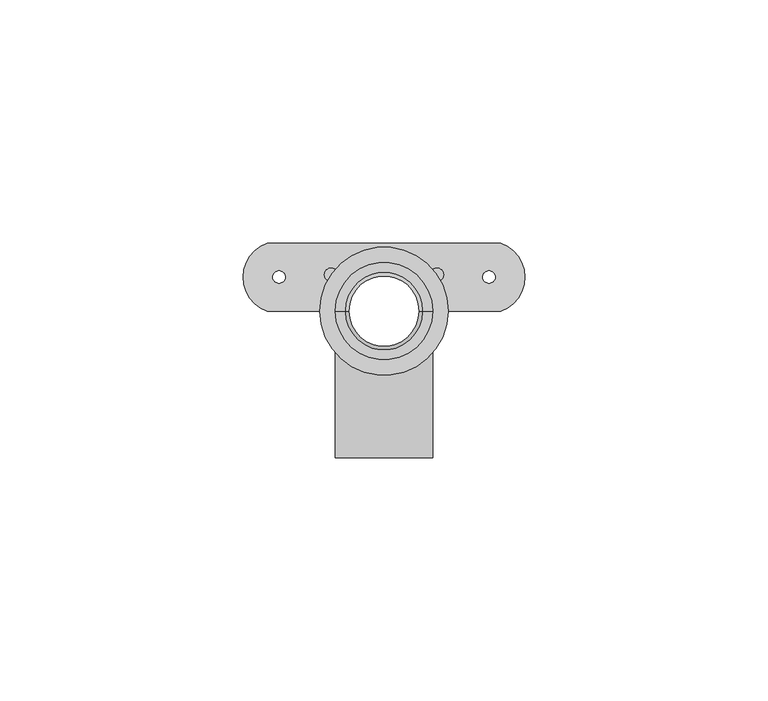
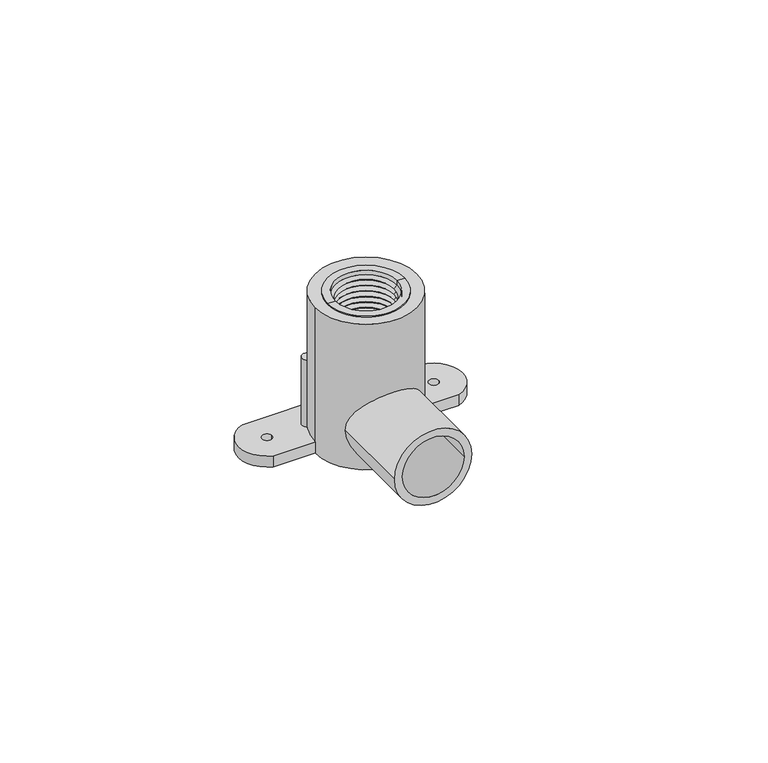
"""IFC4 building model written with IfcOpenShell, lengths in millimetres: valve geometry, Codo con Oreja_Lubrizol_CPVC_FlowGuard_MX 13mm : Codo con Oreja_Lubrizol_CPVC_FlowGuard_MX 13mm."""

from ifc_helpers import new_model, si_unit, point, frame, frame_2d, origin, origin_with_axes, origin_2d, place, context, project, spatial, polyline, circle_curve, trimmed, segment, composite_curve, outline, extrude, source, transform, mapped, element, save
from ifc_brep_helpers import plane_surface, cylinder_surface, revolved_surface, advanced_brep


def valve_1cd27f9c(model_context):
    return source(origin(), model_context, "Body", "SolidModel", [
        extrude(outline(composite_curve([segment(trimmed(circle_curve(origin_2d(), 13.2), [point((11.6014298, 6.2965727))], [point((10.0386703, 8.5711783))], True, "CARTESIAN"), True, "CONTINUOUS"), segment(trimmed(circle_curve(frame_2d((10.8796572, 7.4748284)), 1.3817533), [point((10.0386703, 8.5711783))], [point((11.6014298, 6.2965727))], False, "CARTESIAN"), True, "CONTINUOUS")], self_intersect=False)), origin_with_axes(), (0.0, 0.0, 1.0), 21.0940159),
        extrude(outline(composite_curve([segment(trimmed(circle_curve(frame_2d((-10.8796572, 7.4748284)), 1.3817533), [point((-11.6014298, 6.2965727))], [point((-10.0386703, 8.5711783))], False, "CARTESIAN"), True, "CONTINUOUS"), segment(trimmed(circle_curve(origin_2d(), 13.2), [point((-10.0386703, 8.5711783))], [point((-11.6014298, 6.2965727))], True, "CARTESIAN"), True, "CONTINUOUS")], self_intersect=False)), origin_with_axes(), (0.0, 0.0, 1.0), 21.0940159),
        extrude(outline(composite_curve([segment(polyline([(-24.0, 14.0), (0.0, 14.0), (24.0, 14.0)]), True, "CONTINUOUS"), segment(trimmed(circle_curve(frame_2d((21.6, 7.0)), 7.4), [point((24.0, 14.0))], [point((24.0, 0.0))], False, "CARTESIAN"), True, "CONTINUOUS"), segment(polyline([(24.0, 0.0), (13.2, 0.0)]), True, "CONTINUOUS"), segment(trimmed(circle_curve(origin_2d(), 13.2), [point((13.2, 0.0))], [point((-13.2, 0.0))], True, "CARTESIAN"), True, "CONTINUOUS"), segment(polyline([(-13.2, 0.0), (-24.0, 0.0)]), True, "CONTINUOUS"), segment(trimmed(circle_curve(frame_2d((-21.6, 7.0)), 7.4), [point((-24.0, 0.0))], [point((-24.0, 14.0))], False, "CARTESIAN"), True, "CONTINUOUS")], self_intersect=False), holes=[composite_curve([segment(trimmed(circle_curve(frame_2d((21.6, 7.0)), 1.27), [point((20.33, 7.0))], [point((22.87, 7.0))], True, "CARTESIAN"), True, "CONTINUOUS"), segment(trimmed(circle_curve(frame_2d((21.6, 7.0)), 1.27), [point((22.87, 7.0))], [point((20.33, 7.0))], True, "CARTESIAN"), True, "CONTINUOUS")], self_intersect=False), composite_curve([segment(trimmed(circle_curve(frame_2d((-21.6, 7.0)), 1.27), [point((-20.33, 7.0))], [point((-22.87, 7.0))], True, "CARTESIAN"), True, "CONTINUOUS"), segment(trimmed(circle_curve(frame_2d((-21.6, 7.0)), 1.27), [point((-22.87, 7.0))], [point((-20.33, 7.0))], True, "CARTESIAN"), True, "CONTINUOUS")], self_intersect=False)]), origin_with_axes(), (0.0, 0.0, 1.0), 3.0),
        advanced_brep(
        [(10.0, 0.0, 9.8875332), (-10.0, 0.0, 9.8875332), (-10.0, 0.0, 39.8365206), (10.0, 0.0, 39.8365206), (8.0, 0.0, 9.8875332), (-8.0, 0.0, 9.8875332), (8.0, 0.0, 18.8060667), (-8.0, 0.0, 18.8060667), (7.2373503, 0.0, 19.5687164), (-7.2373503, 0.0, 19.5687164), (8.0, 0.0, 20.3313661), (-8.0, 0.0, 20.3313661), (7.2373503, 0.0, 21.0940159), (-7.2373503, 0.0, 21.0940159), (8.0, 0.0, 21.8566656), (-8.0, 0.0, 21.8566656), (7.2373503, 0.0, 22.6193153), (-7.2373503, 0.0, 22.6193153), (8.0, 0.0, 23.381965), (-8.0, 0.0, 23.381965), (7.2373503, 0.0, 24.1446148), (-7.2373503, 0.0, 24.1446148), (8.0, 0.0, 24.9072645), (-8.0, 0.0, 24.9072645), (7.2373503, 0.0, 25.6699142), (-7.2373503, 0.0, 25.6699142), (8.0, 0.0, 26.432564), (-8.0, 0.0, 26.432564), (7.2373503, 0.0, 27.1952137), (-7.2373503, 0.0, 27.1952137), (8.0, 0.0, 27.9578634), (-8.0, 0.0, 27.9578634), (7.2373503, 0.0, 28.7205131), (-7.2373503, 0.0, 28.7205131), (8.0, 0.0, 29.4831629), (-8.0, 0.0, 29.4831629), (7.2373503, 0.0, 30.2458126), (-7.2373503, 0.0, 30.2458126), (8.0, 0.0, 31.0084623), (-8.0, 0.0, 31.0084623), (7.2373503, 0.0, 31.771112), (-7.2373503, 0.0, 31.771112), (8.0, 0.0, 32.5337618), (-8.0, 0.0, 32.5337618), (7.2373503, 0.0, 33.2964115), (-7.2373503, 0.0, 33.2964115), (8.0, 0.0, 34.0590612), (-8.0, 0.0, 34.0590612), (7.2373503, 0.0, 34.821711), (-7.2373503, 0.0, 34.821711), (8.0, 0.0, 35.5843607), (-8.0, 0.0, 35.5843607), (7.2373503, 0.0, 36.3470104), (-7.2373503, 0.0, 36.3470104), (8.0, 0.0, 37.1096601), (-8.0, 0.0, 37.1096601), (7.2373503, 0.0, 37.8723099), (-7.2373503, 0.0, 37.8723099), (8.0, 0.0, 38.6349596), (-8.0, 0.0, 38.6349596), (8.0, 0.0, 39.8365206), (-8.0, 0.0, 39.8365206)],
        [
            (0, 1, circle_curve(frame((0.0, 0.0, 9.8875332), z_axis=(0.0, 0.0, 1.0), x_axis=(-1.0, 0.0, 0.0)), 10.0)),
            (1, 2),
            (2, 3, circle_curve(frame((0.0, 0.0, 39.8365206), z_axis=(0.0, 0.0, -1.0), x_axis=(-1.0, 0.0, 0.0)), 10.0)),
            (3, 0),
            (1, 0, circle_curve(frame((0.0, 0.0, 9.8875332), z_axis=(0.0, 0.0, 1.0), x_axis=(-1.0, 0.0, 0.0)), 10.0)),
            (3, 2, circle_curve(frame((0.0, 0.0, 39.8365206), z_axis=(0.0, 0.0, -1.0), x_axis=(-1.0, 0.0, 0.0)), 10.0)),
            (4, 5, circle_curve(frame((0.0, 0.0, 9.8875332), z_axis=(0.0, 0.0, 1.0), x_axis=(-1.0, 0.0, 0.0)), 8.0)),
            (5, 1),
            (0, 4),
            (5, 4, circle_curve(frame((0.0, 0.0, 9.8875332), z_axis=(0.0, 0.0, 1.0), x_axis=(-1.0, 0.0, 0.0)), 8.0)),
            (6, 7, circle_curve(frame((0.0, 0.0, 18.8060667), z_axis=(0.0, 0.0, 1.0), x_axis=(-1.0, 0.0, 0.0)), 8.0)),
            (7, 5),
            (4, 6),
            (7, 6, circle_curve(frame((0.0, 0.0, 18.8060667), z_axis=(0.0, 0.0, 1.0), x_axis=(-1.0, 0.0, 0.0)), 8.0)),
            (8, 9, circle_curve(frame((0.0, 0.0, 19.5687164), z_axis=(0.0, 0.0, 1.0), x_axis=(-1.0, 0.0, 0.0)), 7.2373503)),
            (9, 7),
            (6, 8),
            (9, 8, circle_curve(frame((0.0, 0.0, 19.5687164), z_axis=(0.0, 0.0, 1.0), x_axis=(-1.0, 0.0, 0.0)), 7.2373503)),
            (10, 11, circle_curve(frame((0.0, 0.0, 20.3313661), z_axis=(0.0, 0.0, 1.0), x_axis=(-1.0, 0.0, 0.0)), 8.0)),
            (11, 9),
            (8, 10),
            (11, 10, circle_curve(frame((0.0, 0.0, 20.3313661), z_axis=(0.0, 0.0, 1.0), x_axis=(-1.0, 0.0, 0.0)), 8.0)),
            (12, 13, circle_curve(frame((0.0, 0.0, 21.0940159), z_axis=(0.0, 0.0, 1.0), x_axis=(-1.0, 0.0, 0.0)), 7.2373503)),
            (13, 11),
            (10, 12),
            (13, 12, circle_curve(frame((0.0, 0.0, 21.0940159), z_axis=(0.0, 0.0, 1.0), x_axis=(-1.0, 0.0, 0.0)), 7.2373503)),
            (14, 15, circle_curve(frame((0.0, 0.0, 21.8566656), z_axis=(0.0, 0.0, 1.0), x_axis=(-1.0, 0.0, 0.0)), 8.0)),
            (15, 13),
            (12, 14),
            (15, 14, circle_curve(frame((0.0, 0.0, 21.8566656), z_axis=(0.0, 0.0, 1.0), x_axis=(-1.0, 0.0, 0.0)), 8.0)),
            (16, 17, circle_curve(frame((0.0, 0.0, 22.6193153), z_axis=(0.0, 0.0, 1.0), x_axis=(-1.0, 0.0, 0.0)), 7.2373503)),
            (17, 15),
            (14, 16),
            (17, 16, circle_curve(frame((0.0, 0.0, 22.6193153), z_axis=(0.0, 0.0, 1.0), x_axis=(-1.0, 0.0, 0.0)), 7.2373503)),
            (18, 19, circle_curve(frame((0.0, 0.0, 23.381965), z_axis=(0.0, 0.0, 1.0), x_axis=(-1.0, 0.0, 0.0)), 8.0)),
            (19, 17),
            (16, 18),
            (19, 18, circle_curve(frame((0.0, 0.0, 23.381965), z_axis=(0.0, 0.0, 1.0), x_axis=(-1.0, 0.0, 0.0)), 8.0)),
            (20, 21, circle_curve(frame((0.0, 0.0, 24.1446148), z_axis=(0.0, 0.0, 1.0), x_axis=(-1.0, 0.0, 0.0)), 7.2373503)),
            (21, 19),
            (18, 20),
            (21, 20, circle_curve(frame((0.0, 0.0, 24.1446148), z_axis=(0.0, 0.0, 1.0), x_axis=(-1.0, 0.0, 0.0)), 7.2373503)),
            (22, 23, circle_curve(frame((0.0, 0.0, 24.9072645), z_axis=(0.0, 0.0, 1.0), x_axis=(-1.0, 0.0, 0.0)), 8.0)),
            (23, 21),
            (20, 22),
            (23, 22, circle_curve(frame((0.0, 0.0, 24.9072645), z_axis=(0.0, 0.0, 1.0), x_axis=(-1.0, 0.0, 0.0)), 8.0)),
            (24, 25, circle_curve(frame((0.0, 0.0, 25.6699142), z_axis=(0.0, 0.0, 1.0), x_axis=(-1.0, 0.0, 0.0)), 7.2373503)),
            (25, 23),
            (22, 24),
            (25, 24, circle_curve(frame((0.0, 0.0, 25.6699142), z_axis=(0.0, 0.0, 1.0), x_axis=(-1.0, 0.0, 0.0)), 7.2373503)),
            (26, 27, circle_curve(frame((0.0, 0.0, 26.432564), z_axis=(0.0, 0.0, 1.0), x_axis=(-1.0, 0.0, 0.0)), 8.0)),
            (27, 25),
            (24, 26),
            (27, 26, circle_curve(frame((0.0, 0.0, 26.432564), z_axis=(0.0, 0.0, 1.0), x_axis=(-1.0, 0.0, 0.0)), 8.0)),
            (28, 29, circle_curve(frame((0.0, 0.0, 27.1952137), z_axis=(0.0, 0.0, 1.0), x_axis=(-1.0, 0.0, 0.0)), 7.2373503)),
            (29, 27),
            (26, 28),
            (29, 28, circle_curve(frame((0.0, 0.0, 27.1952137), z_axis=(0.0, 0.0, 1.0), x_axis=(-1.0, 0.0, 0.0)), 7.2373503)),
            (30, 31, circle_curve(frame((0.0, 0.0, 27.9578634), z_axis=(0.0, 0.0, 1.0), x_axis=(-1.0, 0.0, 0.0)), 8.0)),
            (31, 29),
            (28, 30),
            (31, 30, circle_curve(frame((0.0, 0.0, 27.9578634), z_axis=(0.0, 0.0, 1.0), x_axis=(-1.0, 0.0, 0.0)), 8.0)),
            (32, 33, circle_curve(frame((0.0, 0.0, 28.7205131), z_axis=(0.0, 0.0, 1.0), x_axis=(-1.0, 0.0, 0.0)), 7.2373503)),
            (33, 31),
            (30, 32),
            (33, 32, circle_curve(frame((0.0, 0.0, 28.7205131), z_axis=(0.0, 0.0, 1.0), x_axis=(-1.0, 0.0, 0.0)), 7.2373503)),
            (34, 35, circle_curve(frame((0.0, 0.0, 29.4831629), z_axis=(0.0, 0.0, 1.0), x_axis=(-1.0, 0.0, 0.0)), 8.0)),
            (35, 33),
            (32, 34),
            (35, 34, circle_curve(frame((0.0, 0.0, 29.4831629), z_axis=(0.0, 0.0, 1.0), x_axis=(-1.0, 0.0, 0.0)), 8.0)),
            (36, 37, circle_curve(frame((0.0, 0.0, 30.2458126), z_axis=(0.0, 0.0, 1.0), x_axis=(-1.0, 0.0, 0.0)), 7.2373503)),
            (37, 35),
            (34, 36),
            (37, 36, circle_curve(frame((0.0, 0.0, 30.2458126), z_axis=(0.0, 0.0, 1.0), x_axis=(-1.0, 0.0, 0.0)), 7.2373503)),
            (38, 39, circle_curve(frame((0.0, 0.0, 31.0084623), z_axis=(0.0, 0.0, 1.0), x_axis=(-1.0, 0.0, 0.0)), 8.0)),
            (39, 37),
            (36, 38),
            (39, 38, circle_curve(frame((0.0, 0.0, 31.0084623), z_axis=(0.0, 0.0, 1.0), x_axis=(-1.0, 0.0, 0.0)), 8.0)),
            (40, 41, circle_curve(frame((0.0, 0.0, 31.771112), z_axis=(0.0, 0.0, 1.0), x_axis=(-1.0, 0.0, 0.0)), 7.2373503)),
            (41, 39),
            (38, 40),
            (41, 40, circle_curve(frame((0.0, 0.0, 31.771112), z_axis=(0.0, 0.0, 1.0), x_axis=(-1.0, 0.0, 0.0)), 7.2373503)),
            (42, 43, circle_curve(frame((0.0, 0.0, 32.5337618), z_axis=(0.0, 0.0, 1.0), x_axis=(-1.0, 0.0, 0.0)), 8.0)),
            (43, 41),
            (40, 42),
            (43, 42, circle_curve(frame((0.0, 0.0, 32.5337618), z_axis=(0.0, 0.0, 1.0), x_axis=(-1.0, 0.0, 0.0)), 8.0)),
            (44, 45, circle_curve(frame((0.0, 0.0, 33.2964115), z_axis=(0.0, 0.0, 1.0), x_axis=(-1.0, 0.0, 0.0)), 7.2373503)),
            (45, 43),
            (42, 44),
            (45, 44, circle_curve(frame((0.0, 0.0, 33.2964115), z_axis=(0.0, 0.0, 1.0), x_axis=(-1.0, 0.0, 0.0)), 7.2373503)),
            (46, 47, circle_curve(frame((0.0, 0.0, 34.0590612), z_axis=(0.0, 0.0, 1.0), x_axis=(-1.0, 0.0, 0.0)), 8.0)),
            (47, 45),
            (44, 46),
            (47, 46, circle_curve(frame((0.0, 0.0, 34.0590612), z_axis=(0.0, 0.0, 1.0), x_axis=(-1.0, 0.0, 0.0)), 8.0)),
            (48, 49, circle_curve(frame((0.0, 0.0, 34.821711), z_axis=(0.0, 0.0, 1.0), x_axis=(-1.0, 0.0, 0.0)), 7.2373503)),
            (49, 47),
            (46, 48),
            (49, 48, circle_curve(frame((0.0, 0.0, 34.821711), z_axis=(0.0, 0.0, 1.0), x_axis=(-1.0, 0.0, 0.0)), 7.2373503)),
            (50, 51, circle_curve(frame((0.0, 0.0, 35.5843607), z_axis=(0.0, 0.0, 1.0), x_axis=(-1.0, 0.0, 0.0)), 8.0)),
            (51, 49),
            (48, 50),
            (51, 50, circle_curve(frame((0.0, 0.0, 35.5843607), z_axis=(0.0, 0.0, 1.0), x_axis=(-1.0, 0.0, 0.0)), 8.0)),
            (52, 53, circle_curve(frame((0.0, 0.0, 36.3470104), z_axis=(0.0, 0.0, 1.0), x_axis=(-1.0, 0.0, 0.0)), 7.2373503)),
            (53, 51),
            (50, 52),
            (53, 52, circle_curve(frame((0.0, 0.0, 36.3470104), z_axis=(0.0, 0.0, 1.0), x_axis=(-1.0, 0.0, 0.0)), 7.2373503)),
            (54, 55, circle_curve(frame((0.0, 0.0, 37.1096601), z_axis=(0.0, 0.0, 1.0), x_axis=(-1.0, 0.0, 0.0)), 8.0)),
            (55, 53),
            (52, 54),
            (55, 54, circle_curve(frame((0.0, 0.0, 37.1096601), z_axis=(0.0, 0.0, 1.0), x_axis=(-1.0, 0.0, 0.0)), 8.0)),
            (56, 57, circle_curve(frame((0.0, 0.0, 37.8723099), z_axis=(0.0, 0.0, 1.0), x_axis=(-1.0, 0.0, 0.0)), 7.2373503)),
            (57, 55),
            (54, 56),
            (57, 56, circle_curve(frame((0.0, 0.0, 37.8723099), z_axis=(0.0, 0.0, 1.0), x_axis=(-1.0, 0.0, 0.0)), 7.2373503)),
            (58, 59, circle_curve(frame((0.0, 0.0, 38.6349596), z_axis=(0.0, 0.0, 1.0), x_axis=(-1.0, 0.0, 0.0)), 8.0)),
            (59, 57),
            (56, 58),
            (59, 58, circle_curve(frame((0.0, 0.0, 38.6349596), z_axis=(0.0, 0.0, 1.0), x_axis=(-1.0, 0.0, 0.0)), 8.0)),
            (60, 61, circle_curve(frame((0.0, 0.0, 39.8365206), z_axis=(0.0, 0.0, 1.0), x_axis=(-1.0, 0.0, 0.0)), 8.0)),
            (61, 59),
            (58, 60),
            (61, 60, circle_curve(frame((0.0, 0.0, 39.8365206), z_axis=(0.0, 0.0, 1.0), x_axis=(-1.0, 0.0, 0.0)), 8.0)),
            (2, 61),
            (60, 3),
        ],
        [
            cylinder_surface(frame((0.0, 0.0, 39.8365206), z_axis=(0.0, 0.0, -1.0), x_axis=(-1.0, 0.0, 0.0)), 10.0),
            plane_surface(frame((0.0, 0.0, 9.8875332), z_axis=(0.0, 0.0, -1.0), x_axis=(-1.0, 0.0, 0.0))),
            revolved_surface(polyline([(-8.0, 0.0, 9.8875332), (-8.0, 0.0, 18.8060667)]), (0.0, 0.0, 39.8365206), (0.0, 0.0, -1.0)),
            revolved_surface(polyline([(-8.0, 0.0, 18.8060667), (-7.2373503, 0.0, 19.5687164)]), (0.0, 0.0, 39.8365206), (0.0, 0.0, -1.0)),
            revolved_surface(polyline([(-7.2373503, 0.0, 19.5687164), (-8.0, 0.0, 20.3313661)]), (0.0, 0.0, 39.8365206), (0.0, 0.0, -1.0)),
            revolved_surface(polyline([(-8.0, 0.0, 20.3313661), (-7.2373503, 0.0, 21.0940159)]), (0.0, 0.0, 39.8365206), (0.0, 0.0, -1.0)),
            revolved_surface(polyline([(-7.2373503, 0.0, 21.0940159), (-8.0, 0.0, 21.8566656)]), (0.0, 0.0, 39.8365206), (0.0, 0.0, -1.0)),
            revolved_surface(polyline([(-8.0, 0.0, 21.8566656), (-7.2373503, 0.0, 22.6193153)]), (0.0, 0.0, 39.8365206), (0.0, 0.0, -1.0)),
            revolved_surface(polyline([(-7.2373503, 0.0, 22.6193153), (-8.0, 0.0, 23.381965)]), (0.0, 0.0, 39.8365206), (0.0, 0.0, -1.0)),
            revolved_surface(polyline([(-8.0, 0.0, 23.381965), (-7.2373503, 0.0, 24.1446148)]), (0.0, 0.0, 39.8365206), (0.0, 0.0, -1.0)),
            revolved_surface(polyline([(-7.2373503, 0.0, 24.1446148), (-8.0, 0.0, 24.9072645)]), (0.0, 0.0, 39.8365206), (0.0, 0.0, -1.0)),
            revolved_surface(polyline([(-8.0, 0.0, 24.9072645), (-7.2373503, 0.0, 25.6699142)]), (0.0, 0.0, 39.8365206), (0.0, 0.0, -1.0)),
            revolved_surface(polyline([(-7.2373503, 0.0, 25.6699142), (-8.0, 0.0, 26.432564)]), (0.0, 0.0, 39.8365206), (0.0, 0.0, -1.0)),
            revolved_surface(polyline([(-8.0, 0.0, 26.432564), (-7.2373503, 0.0, 27.1952137)]), (0.0, 0.0, 39.8365206), (0.0, 0.0, -1.0)),
            revolved_surface(polyline([(-7.2373503, 0.0, 27.1952137), (-8.0, 0.0, 27.9578634)]), (0.0, 0.0, 39.8365206), (0.0, 0.0, -1.0)),
            revolved_surface(polyline([(-8.0, 0.0, 27.9578634), (-7.2373503, 0.0, 28.7205131)]), (0.0, 0.0, 39.8365206), (0.0, 0.0, -1.0)),
            revolved_surface(polyline([(-7.2373503, 0.0, 28.7205131), (-8.0, 0.0, 29.4831629)]), (0.0, 0.0, 39.8365206), (0.0, 0.0, -1.0)),
            revolved_surface(polyline([(-8.0, 0.0, 29.4831629), (-7.2373503, 0.0, 30.2458126)]), (0.0, 0.0, 39.8365206), (0.0, 0.0, -1.0)),
            revolved_surface(polyline([(-7.2373503, 0.0, 30.2458126), (-8.0, 0.0, 31.0084623)]), (0.0, 0.0, 39.8365206), (0.0, 0.0, -1.0)),
            revolved_surface(polyline([(-8.0, 0.0, 31.0084623), (-7.2373503, 0.0, 31.771112)]), (0.0, 0.0, 39.8365206), (0.0, 0.0, -1.0)),
            revolved_surface(polyline([(-7.2373503, 0.0, 31.771112), (-8.0, 0.0, 32.5337618)]), (0.0, 0.0, 39.8365206), (0.0, 0.0, -1.0)),
            revolved_surface(polyline([(-8.0, 0.0, 32.5337618), (-7.2373503, 0.0, 33.2964115)]), (0.0, 0.0, 39.8365206), (0.0, 0.0, -1.0)),
            revolved_surface(polyline([(-7.2373503, 0.0, 33.2964115), (-8.0, 0.0, 34.0590612)]), (0.0, 0.0, 39.8365206), (0.0, 0.0, -1.0)),
            revolved_surface(polyline([(-8.0, 0.0, 34.0590612), (-7.2373503, 0.0, 34.821711)]), (0.0, 0.0, 39.8365206), (0.0, 0.0, -1.0)),
            revolved_surface(polyline([(-7.2373503, 0.0, 34.821711), (-8.0, 0.0, 35.5843607)]), (0.0, 0.0, 39.8365206), (0.0, 0.0, -1.0)),
            revolved_surface(polyline([(-8.0, 0.0, 35.5843607), (-7.2373503, 0.0, 36.3470104)]), (0.0, 0.0, 39.8365206), (0.0, 0.0, -1.0)),
            revolved_surface(polyline([(-7.2373503, 0.0, 36.3470104), (-8.0, 0.0, 37.1096601)]), (0.0, 0.0, 39.8365206), (0.0, 0.0, -1.0)),
            revolved_surface(polyline([(-8.0, 0.0, 37.1096601), (-7.2373503, 0.0, 37.8723099)]), (0.0, 0.0, 39.8365206), (0.0, 0.0, -1.0)),
            revolved_surface(polyline([(-7.2373503, 0.0, 37.8723099), (-8.0, 0.0, 38.6349596)]), (0.0, 0.0, 39.8365206), (0.0, 0.0, -1.0)),
            revolved_surface(polyline([(-8.0, 0.0, 38.6349596), (-8.0, 0.0, 39.8365206)]), (0.0, 0.0, 39.8365206), (0.0, 0.0, -1.0)),
            plane_surface(frame((0.0, 0.0, 39.8365206), z_axis=(0.0, 0.0, 1.0), x_axis=(-1.0, 0.0, 0.0))),
        ],
        [
            (0, [[1, 2, 3, 4]]),
            (0, [[5, -4, 6, -2]]),
            (1, [[7, 8, -1, 9]]),
            (1, [[10, -9, -5, -8]]),
            (2, [[11, 12, -7, 13]]),
            (2, [[14, -13, -10, -12]]),
            (3, [[15, 16, -11, 17]]),
            (3, [[18, -17, -14, -16]]),
            (4, [[19, 20, -15, 21]]),
            (4, [[22, -21, -18, -20]]),
            (5, [[23, 24, -19, 25]]),
            (5, [[26, -25, -22, -24]]),
            (6, [[27, 28, -23, 29]]),
            (6, [[30, -29, -26, -28]]),
            (7, [[31, 32, -27, 33]]),
            (7, [[34, -33, -30, -32]]),
            (8, [[35, 36, -31, 37]]),
            (8, [[38, -37, -34, -36]]),
            (9, [[39, 40, -35, 41]]),
            (9, [[42, -41, -38, -40]]),
            (10, [[43, 44, -39, 45]]),
            (10, [[46, -45, -42, -44]]),
            (11, [[47, 48, -43, 49]]),
            (11, [[50, -49, -46, -48]]),
            (12, [[51, 52, -47, 53]]),
            (12, [[54, -53, -50, -52]]),
            (13, [[55, 56, -51, 57]]),
            (13, [[58, -57, -54, -56]]),
            (14, [[59, 60, -55, 61]]),
            (14, [[62, -61, -58, -60]]),
            (15, [[63, 64, -59, 65]]),
            (15, [[66, -65, -62, -64]]),
            (16, [[67, 68, -63, 69]]),
            (16, [[70, -69, -66, -68]]),
            (17, [[71, 72, -67, 73]]),
            (17, [[74, -73, -70, -72]]),
            (18, [[75, 76, -71, 77]]),
            (18, [[78, -77, -74, -76]]),
            (19, [[79, 80, -75, 81]]),
            (19, [[82, -81, -78, -80]]),
            (20, [[83, 84, -79, 85]]),
            (20, [[86, -85, -82, -84]]),
            (21, [[87, 88, -83, 89]]),
            (21, [[90, -89, -86, -88]]),
            (22, [[91, 92, -87, 93]]),
            (22, [[94, -93, -90, -92]]),
            (23, [[95, 96, -91, 97]]),
            (23, [[98, -97, -94, -96]]),
            (24, [[99, 100, -95, 101]]),
            (24, [[102, -101, -98, -100]]),
            (25, [[103, 104, -99, 105]]),
            (25, [[106, -105, -102, -104]]),
            (26, [[107, 108, -103, 109]]),
            (26, [[110, -109, -106, -108]]),
            (27, [[111, 112, -107, 113]]),
            (27, [[114, -113, -110, -112]]),
            (28, [[115, 116, -111, 117]]),
            (28, [[118, -117, -114, -116]]),
            (29, [[119, 120, -115, 121]]),
            (29, [[122, -121, -118, -120]]),
            (30, [[-3, 123, -119, 124]]),
            (30, [[-6, -124, -122, -123]]),
        ],
    ),
        extrude(outline(composite_curve([segment(trimmed(circle_curve(frame_2d((9.8875332, 0.0)), 10.0), [point((9.8875332, -10.0))], [point((9.8875332, 10.0))], False, "CARTESIAN"), True, "CONTINUOUS"), segment(trimmed(circle_curve(frame_2d((9.8875332, 0.0)), 10.0), [point((9.8875332, 10.0))], [point((9.8875332, -10.0))], False, "CARTESIAN"), True, "CONTINUOUS")], self_intersect=False), holes=[composite_curve([segment(trimmed(circle_curve(frame_2d((9.8875332, 0.0)), 8.0), [point((9.8875332, -8.0))], [point((9.8875332, 8.0))], True, "CARTESIAN"), True, "CONTINUOUS"), segment(trimmed(circle_curve(frame_2d((9.8875332, 0.0)), 8.0), [point((9.8875332, 8.0))], [point((9.8875332, -8.0))], True, "CARTESIAN"), True, "CONTINUOUS")], self_intersect=False)]), frame((0.0, -30.1796739, 0.0), z_axis=(0.0, 1.0, 0.0), x_axis=(0.0, 0.0, 1.0)), (0.0, 0.0, 1.0), 22.8303017),
        extrude(outline(composite_curve([segment(trimmed(circle_curve(origin_2d(), 13.2), [point((-13.2, 0.0))], [point((13.2, 0.0))], False, "CARTESIAN"), True, "CONTINUOUS"), segment(trimmed(circle_curve(origin_2d(), 13.2), [point((13.2, 0.0))], [point((-13.2, 0.0))], False, "CARTESIAN"), True, "CONTINUOUS")], self_intersect=False), holes=[composite_curve([segment(trimmed(circle_curve(origin_2d(), 10.0), [point((-10.0, 0.0))], [point((10.0, 0.0))], True, "CARTESIAN"), True, "CONTINUOUS"), segment(trimmed(circle_curve(origin_2d(), 10.0), [point((10.0, 0.0))], [point((-10.0, 0.0))], True, "CARTESIAN"), True, "CONTINUOUS")], self_intersect=False)]), origin_with_axes(), (0.0, 0.0, 1.0), 39.8365206),
    ])


if __name__ == "__main__":
    model = new_model("IFC4")
    model_context = context("Model", 3, world=origin())
    ifc_project = project(units=[si_unit("LENGTHUNIT", "METRE", prefix="MILLI")], contexts=[model_context])
    site = spatial("IfcSite", under=ifc_project)
    building = spatial("IfcBuilding", under=site)
    placement = place(None, origin())
    valve_shape = valve_1cd27f9c(model_context)
    element("IfcValve", 1, ObjectType="Codo con Oreja_Lubrizol_CPVC_FlowGuard_MX 13mm : Codo con Oreja_Lubrizol_CPVC_FlowGuard_MX 13mm", at=placement, inside=building, context=model_context, shape_type="MappedRepresentation", body=[
        mapped(valve_shape, transform((0.0, 0.0, 0.0), x_axis=(1.0, 0.0, 0.0), y_axis=(0.0, 1.0, 0.0), z_axis=(0.0, 0.0, 1.0))),
    ])
    save(model, "model.ifc")
